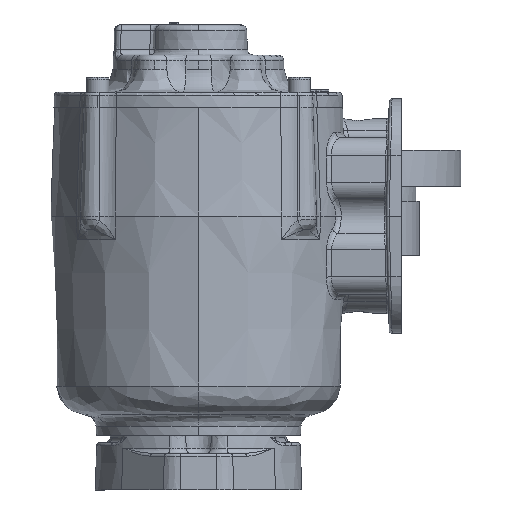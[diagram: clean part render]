
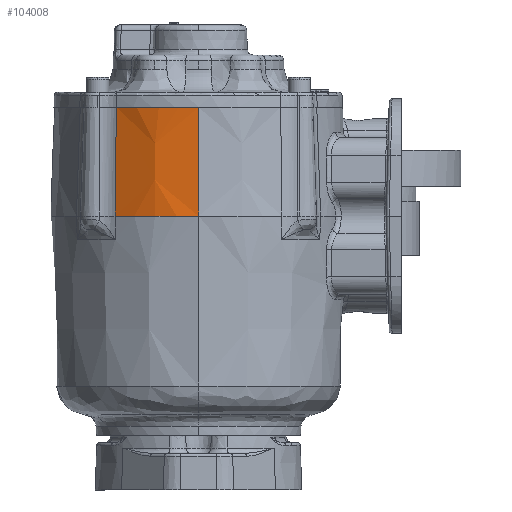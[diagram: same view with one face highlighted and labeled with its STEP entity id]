
A CAD part, left-side view. The second image highlights one B-rep face of the part: STEP entity #104008.
In plain terms, the highlighted conical face has half-angle 2 degrees and reference radius 78.232 mm.
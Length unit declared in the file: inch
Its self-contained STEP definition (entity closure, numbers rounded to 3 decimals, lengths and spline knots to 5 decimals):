
#2104 = CARTESIAN_POINT ( 'NONE',  ( -0.95267, 1.86514, 0.34734 ) ) ;
#4730 = CARTESIAN_POINT ( 'NONE',  ( -3.94221, 2.16684, 2.61184 ) ) ;
#8309 = DIRECTION ( 'NONE',  ( 0., 0., -1. ) ) ;
#12044 = VECTOR ( 'NONE', #47415, 39.37008 ) ;
#15627 = ORIENTED_EDGE ( 'NONE', *, *, #127087, .F. ) ;
#16622 = CARTESIAN_POINT ( 'NONE',  ( -3.41704, 3.57757, 2.61184 ) ) ;
#21775 = CARTESIAN_POINT ( 'NONE',  ( -3.95359, 1.86514, 2.61184 ) ) ;
#25130 = EDGE_LOOP ( 'NONE', ( #28272, #145735, #145353, #15627 ) ) ;
#26944 = EDGE_CURVE ( 'NONE', #61755, #149903, #87882, .T. ) ;
#28272 = ORIENTED_EDGE ( 'NONE', *, *, #110088, .F. ) ;
#28521 = CARTESIAN_POINT ( 'NONE',  ( -3.89684, 2.44821, 2.61184 ) ) ;
#29088 = CIRCLE ( 'NONE', #155524, 3.08 ) ;
#30870 = CARTESIAN_POINT ( 'NONE',  ( -3.6444, 3.19183, 2.61184 ) ) ;
#34720 = LINE ( 'NONE', #83068, #12044 ) ;
#39372 = DIRECTION ( 'NONE',  ( 0., 0., -1. ) ) ;
#40441 = CARTESIAN_POINT ( 'NONE',  ( -3.61681, 3.24664, 2.61184 ) ) ;
#42005 = CARTESIAN_POINT ( 'NONE',  ( -3.91653, 2.33529, 2.61184 ) ) ;
#42467 = CARTESIAN_POINT ( 'NONE',  ( -0.95267, 1.86514, 0.34734 ) ) ;
#47415 = DIRECTION ( 'NONE',  ( -0.035, 0., -0.999 ) ) ;
#49957 = CARTESIAN_POINT ( 'NONE',  ( -3.41704, 3.57757, 2.61184 ) ) ;
#52579 = EDGE_CURVE ( 'NONE', #61755, #126122, #145651, .T. ) ;
#54666 = CARTESIAN_POINT ( 'NONE',  ( -3.91802, 2.32584, 2.61184 ) ) ;
#61755 = VERTEX_POINT ( 'NONE', #49957 ) ;
#63341 = FACE_OUTER_BOUND ( 'NONE', #25130, .T. ) ;
#64996 = CARTESIAN_POINT ( 'NONE',  ( -3.90878, 2.38244, 2.61184 ) ) ;
#75809 = DIRECTION ( 'NONE',  ( 1., 0., 0. ) ) ;
#83068 = CARTESIAN_POINT ( 'NONE',  ( -4.03267, 1.86514, 0.34734 ) ) ;
#87882 = B_SPLINE_CURVE_WITH_KNOTS ( 'NONE', 3,
 ( #16622, #103771, #113316, #137899, #40441, #88773, #152078, #125226, #30870, #91122, #137123, #127568, #104535, #28521, #64996, #114102, #42005, #54666, #90337, #4730, #101445, #102992 ),
 .UNSPECIFIED., .F., .F.,
 ( 4, 1, 1, 1, 1, 2, 2, 2, 1, 1, 1, 1, 2, 2, 4 ),
 ( 0., 0.125, 0.1875, 0.21875, 0.23437, 0.24219, 0.25, 0.5, 0.625, 0.6875, 0.71875, 0.73437, 0.74219, 0.75, 1. ),
 .UNSPECIFIED. ) ;
#88773 = CARTESIAN_POINT ( 'NONE',  ( -3.63179, 3.21717, 2.61184 ) ) ;
#90337 = CARTESIAN_POINT ( 'NONE',  ( -3.91876, 2.32106, 2.61184 ) ) ;
#91122 = CARTESIAN_POINT ( 'NONE',  ( -3.71395, 3.05017, 2.61184 ) ) ;
#101445 = CARTESIAN_POINT ( 'NONE',  ( -3.95359, 2.01642, 2.61184 ) ) ;
#102992 = CARTESIAN_POINT ( 'NONE',  ( -3.95359, 1.86514, 2.61184 ) ) ;
#103262 = CARTESIAN_POINT ( 'NONE',  ( -3.46942, 3.5932, 1.12354 ) ) ;
#103771 = CARTESIAN_POINT ( 'NONE',  ( -3.4602, 3.51546, 2.61184 ) ) ;
#104008 = ADVANCED_FACE ( 'NONE', ( #63341 ), #130558, .T. ) ;
#104535 = CARTESIAN_POINT ( 'NONE',  ( -3.86924, 2.57888, 2.61184 ) ) ;
#110088 = EDGE_CURVE ( 'NONE', #149903, #117968, #34720, .T. ) ;
#113316 = CARTESIAN_POINT ( 'NONE',  ( -3.52125, 3.42012, 2.61184 ) ) ;
#114102 = CARTESIAN_POINT ( 'NONE',  ( -3.91428, 2.34945, 2.61184 ) ) ;
#115373 = AXIS2_PLACEMENT_3D ( 'NONE', #42467, #8309, #116891 ) ;
#115935 = CARTESIAN_POINT ( 'NONE',  ( -3.44291, 3.58522, 1.87838 ) ) ;
#116891 = DIRECTION ( 'NONE',  ( -1., 0., 0. ) ) ;
#117968 = VERTEX_POINT ( 'NONE', #128356 ) ;
#125226 = CARTESIAN_POINT ( 'NONE',  ( -3.64233, 3.19602, 2.61184 ) ) ;
#126122 = VERTEX_POINT ( 'NONE', #134865 ) ;
#127087 = EDGE_CURVE ( 'NONE', #117968, #126122, #29088, .T. ) ;
#127568 = CARTESIAN_POINT ( 'NONE',  ( -3.83919, 2.68939, 2.61184 ) ) ;
#128356 = CARTESIAN_POINT ( 'NONE',  ( -4.03267, 1.86514, 0.34734 ) ) ;
#130558 = CONICAL_SURFACE ( 'NONE', #115373, 3.08, 0.035 ) ;
#134865 = CARTESIAN_POINT ( 'NONE',  ( -3.49656, 3.60152, 0.34734 ) ) ;
#135074 = CARTESIAN_POINT ( 'NONE',  ( -3.41704, 3.57757, 2.61184 ) ) ;
#137123 = CARTESIAN_POINT ( 'NONE',  ( -3.77055, 2.90843, 2.61184 ) ) ;
#137899 = CARTESIAN_POINT ( 'NONE',  ( -3.58603, 3.3051, 2.61184 ) ) ;
#140509 = CARTESIAN_POINT ( 'NONE',  ( -3.49656, 3.60152, 0.34734 ) ) ;
#145353 = ORIENTED_EDGE ( 'NONE', *, *, #52579, .T. ) ;
#145651 = B_SPLINE_CURVE_WITH_KNOTS ( 'NONE', 3,
 ( #135074, #115935, #103262, #140509 ),
 .UNSPECIFIED., .F., .F.,
 ( 4, 4 ),
 ( 0., 1. ),
 .UNSPECIFIED. ) ;
#145735 = ORIENTED_EDGE ( 'NONE', *, *, #26944, .F. ) ;
#149903 = VERTEX_POINT ( 'NONE', #21775 ) ;
#152078 = CARTESIAN_POINT ( 'NONE',  ( -3.63813, 3.20449, 2.61184 ) ) ;
#155524 = AXIS2_PLACEMENT_3D ( 'NONE', #2104, #39372, #75809 ) ;
